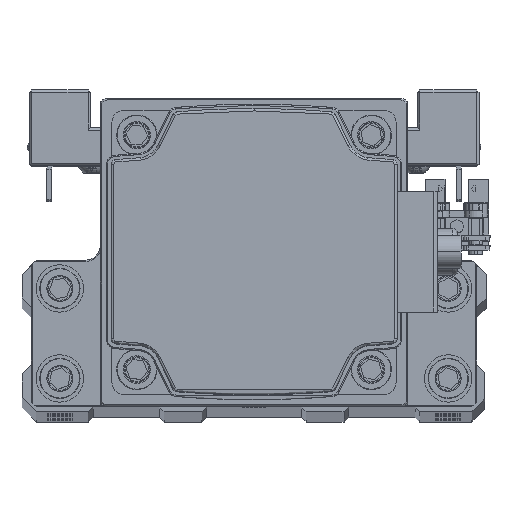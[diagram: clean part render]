
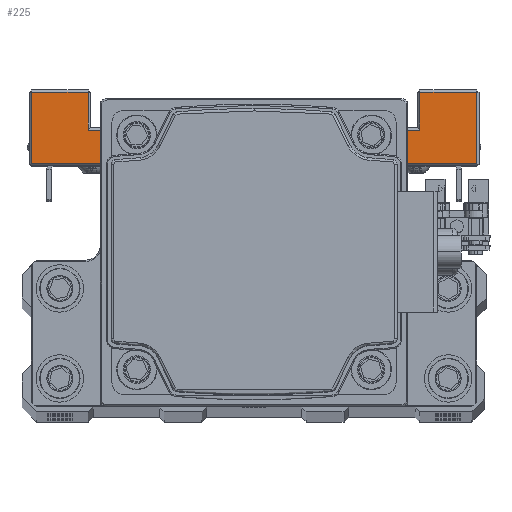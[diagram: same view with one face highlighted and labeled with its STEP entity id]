
A CAD part, top view. The second image highlights one B-rep face of the part: STEP entity #225.
In plain terms, the highlighted planar face has unit normal (0, 0, 1) as drawn and (1, 0, 0) by its records, which use the part's own axes.
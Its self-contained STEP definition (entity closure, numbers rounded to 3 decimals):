
#225 = ADVANCED_FACE ( 'NONE', ( #11662 ), #25555, .F. ) ;
#269 = VECTOR ( 'NONE', #26179, 1000. ) ;
#1172 = CARTESIAN_POINT ( 'NONE',  ( 47., 8., -47. ) ) ;
#2541 = VECTOR ( 'NONE', #26475, 1000. ) ;
#2724 = EDGE_CURVE ( 'NONE', #12402, #18059, #11504, .T. ) ;
#3147 = CARTESIAN_POINT ( 'NONE',  ( 47., 23., 35. ) ) ;
#4033 = DIRECTION ( 'NONE',  ( 0., -1., 0. ) ) ;
#4499 = EDGE_CURVE ( 'NONE', #21483, #12402, #36919, .T. ) ;
#5285 = CARTESIAN_POINT ( 'NONE',  ( 47., 15., 35. ) ) ;
#5453 = DIRECTION ( 'NONE',  ( 0., 0., 1. ) ) ;
#5717 = CARTESIAN_POINT ( 'NONE',  ( 47., 23., -20. ) ) ;
#6043 = EDGE_CURVE ( 'NONE', #17516, #21483, #43482, .T. ) ;
#6714 = DIRECTION ( 'NONE',  ( 0., -1., 0. ) ) ;
#7154 = ORIENTED_EDGE ( 'NONE', *, *, #9680, .T. ) ;
#7457 = DIRECTION ( 'NONE',  ( 0., 0., 1. ) ) ;
#7588 = LINE ( 'NONE', #21465, #25413 ) ;
#8237 = VECTOR ( 'NONE', #6714, 1000. ) ;
#8250 = DIRECTION ( 'NONE',  ( -1., 0., 0. ) ) ;
#8985 = VERTEX_POINT ( 'NONE', #31037 ) ;
#9507 = VERTEX_POINT ( 'NONE', #24381 ) ;
#9680 = EDGE_CURVE ( 'NONE', #18059, #17255, #22763, .T. ) ;
#9829 = VERTEX_POINT ( 'NONE', #30933 ) ;
#10243 = EDGE_CURVE ( 'NONE', #17255, #17866, #7588, .T. ) ;
#11331 = ORIENTED_EDGE ( 'NONE', *, *, #22894, .T. ) ;
#11504 = LINE ( 'NONE', #25396, #19177 ) ;
#11662 = FACE_OUTER_BOUND ( 'NONE', #33955, .T. ) ;
#12289 = CARTESIAN_POINT ( 'NONE',  ( 47., 7.5, -47. ) ) ;
#12402 = VERTEX_POINT ( 'NONE', #35084 ) ;
#12595 = CARTESIAN_POINT ( 'NONE',  ( 47., 8., 20. ) ) ;
#12955 = CARTESIAN_POINT ( 'NONE',  ( 47., 7.5, 47. ) ) ;
#14954 = CARTESIAN_POINT ( 'NONE',  ( 47., 23., -47. ) ) ;
#15060 = DIRECTION ( 'NONE',  ( 0., 0., -1. ) ) ;
#15406 = VECTOR ( 'NONE', #15060, 1000. ) ;
#16080 = LINE ( 'NONE', #29974, #42156 ) ;
#17055 = CARTESIAN_POINT ( 'NONE',  ( 47., 8., -20. ) ) ;
#17255 = VERTEX_POINT ( 'NONE', #5285 ) ;
#17516 = VERTEX_POINT ( 'NONE', #28017 ) ;
#17866 = VERTEX_POINT ( 'NONE', #3147 ) ;
#18059 = VERTEX_POINT ( 'NONE', #18397 ) ;
#18397 = CARTESIAN_POINT ( 'NONE',  ( 47., 15., -35. ) ) ;
#19143 = CARTESIAN_POINT ( 'NONE',  ( 47., 8., 47. ) ) ;
#19157 = VERTEX_POINT ( 'NONE', #17055 ) ;
#19177 = VECTOR ( 'NONE', #39295, 1000. ) ;
#19605 = DIRECTION ( 'NONE',  ( 0., 0., 1. ) ) ;
#20191 = VECTOR ( 'NONE', #4033, 1000. ) ;
#20214 = CARTESIAN_POINT ( 'NONE',  ( 47., 8., 20. ) ) ;
#20519 = VECTOR ( 'NONE', #19605, 1000. ) ;
#21338 = LINE ( 'NONE', #35237, #20191 ) ;
#21465 = CARTESIAN_POINT ( 'NONE',  ( 47., 7.5, 35. ) ) ;
#21483 = VERTEX_POINT ( 'NONE', #14954 ) ;
#22133 = DIRECTION ( 'NONE',  ( 0., 0., 1. ) ) ;
#22291 = AXIS2_PLACEMENT_3D ( 'NONE', #39450, #8250, #22133 ) ;
#22763 = LINE ( 'NONE', #36662, #23903 ) ;
#22822 = ORIENTED_EDGE ( 'NONE', *, *, #6043, .T. ) ;
#22894 = EDGE_CURVE ( 'NONE', #9507, #9829, #16080, .T. ) ;
#23190 = ORIENTED_EDGE ( 'NONE', *, *, #37447, .T. ) ;
#23582 = ORIENTED_EDGE ( 'NONE', *, *, #28540, .T. ) ;
#23903 = VECTOR ( 'NONE', #5453, 1000. ) ;
#24013 = LINE ( 'NONE', #37915, #8237 ) ;
#24381 = CARTESIAN_POINT ( 'NONE',  ( 47., -7.5, 20. ) ) ;
#24757 = LINE ( 'NONE', #38656, #39856 ) ;
#24905 = EDGE_CURVE ( 'NONE', #8985, #40815, #44147, .T. ) ;
#25396 = CARTESIAN_POINT ( 'NONE',  ( 47., 7.5, -35. ) ) ;
#25413 = VECTOR ( 'NONE', #35367, 1000. ) ;
#25555 = PLANE ( 'NONE',  #22291 ) ;
#25599 = VECTOR ( 'NONE', #26846, 1000. ) ;
#26179 = DIRECTION ( 'NONE',  ( 0., 1., 0. ) ) ;
#26475 = DIRECTION ( 'NONE',  ( 0., 0., -1. ) ) ;
#26846 = DIRECTION ( 'NONE',  ( 0., -1., 0. ) ) ;
#28017 = CARTESIAN_POINT ( 'NONE',  ( 47., 8., -47. ) ) ;
#28540 = EDGE_CURVE ( 'NONE', #19157, #17516, #32375, .T. ) ;
#28935 = ORIENTED_EDGE ( 'NONE', *, *, #32739, .T. ) ;
#29661 = EDGE_CURVE ( 'NONE', #19157, #9829, #24013, .T. ) ;
#29974 = CARTESIAN_POINT ( 'NONE',  ( 47., -7.5, -20. ) ) ;
#30004 = ORIENTED_EDGE ( 'NONE', *, *, #37444, .T. ) ;
#30014 = ORIENTED_EDGE ( 'NONE', *, *, #2724, .T. ) ;
#30933 = CARTESIAN_POINT ( 'NONE',  ( 47., -7.5, -20. ) ) ;
#31037 = CARTESIAN_POINT ( 'NONE',  ( 47., 23., 47. ) ) ;
#32165 = ORIENTED_EDGE ( 'NONE', *, *, #29661, .F. ) ;
#32375 = LINE ( 'NONE', #1172, #15406 ) ;
#32739 = EDGE_CURVE ( 'NONE', #40815, #38490, #43779, .T. ) ;
#33955 = EDGE_LOOP ( 'NONE', ( #32165, #23582, #22822, #35219, #30014, #7154, #44817, #30004, #42934, #28935, #23190, #11331 ) ) ;
#35084 = CARTESIAN_POINT ( 'NONE',  ( 47., 23., -35. ) ) ;
#35219 = ORIENTED_EDGE ( 'NONE', *, *, #4499, .T. ) ;
#35237 = CARTESIAN_POINT ( 'NONE',  ( 47., 7.5, 20. ) ) ;
#35367 = DIRECTION ( 'NONE',  ( 0., 1., 0. ) ) ;
#36662 = CARTESIAN_POINT ( 'NONE',  ( 47., 15., -20. ) ) ;
#36919 = LINE ( 'NONE', #5717, #20519 ) ;
#37444 = EDGE_CURVE ( 'NONE', #17866, #8985, #24757, .T. ) ;
#37447 = EDGE_CURVE ( 'NONE', #38490, #9507, #21338, .T. ) ;
#37915 = CARTESIAN_POINT ( 'NONE',  ( 47., 7.5, -20. ) ) ;
#38490 = VERTEX_POINT ( 'NONE', #20214 ) ;
#38656 = CARTESIAN_POINT ( 'NONE',  ( 47., 23., -20. ) ) ;
#39295 = DIRECTION ( 'NONE',  ( 0., -1., 0. ) ) ;
#39450 = CARTESIAN_POINT ( 'NONE',  ( 47., 7.5, -20. ) ) ;
#39856 = VECTOR ( 'NONE', #7457, 1000. ) ;
#40815 = VERTEX_POINT ( 'NONE', #19143 ) ;
#42156 = VECTOR ( 'NONE', #43858, 1000. ) ;
#42934 = ORIENTED_EDGE ( 'NONE', *, *, #24905, .T. ) ;
#43482 = LINE ( 'NONE', #12289, #269 ) ;
#43779 = LINE ( 'NONE', #12595, #2541 ) ;
#43858 = DIRECTION ( 'NONE',  ( 0., 0., -1. ) ) ;
#44147 = LINE ( 'NONE', #12955, #25599 ) ;
#44817 = ORIENTED_EDGE ( 'NONE', *, *, #10243, .T. ) ;
